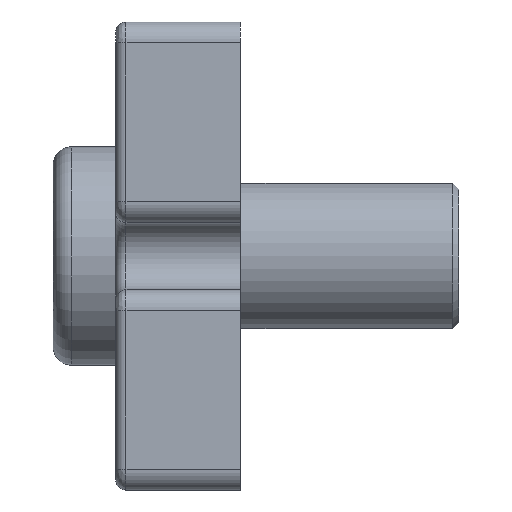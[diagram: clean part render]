
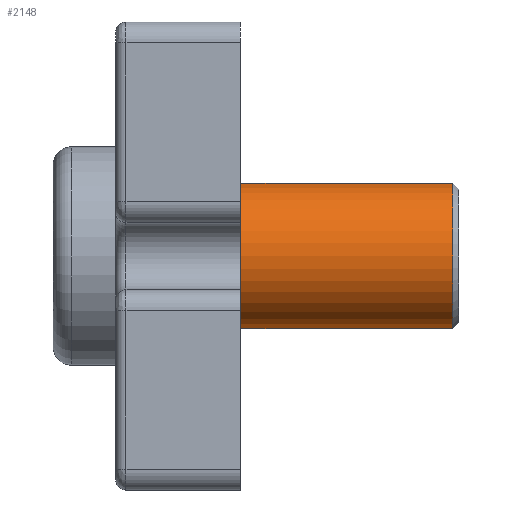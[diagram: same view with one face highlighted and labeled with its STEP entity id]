
A CAD part, left-side view. The second image highlights one B-rep face of the part: STEP entity #2148.
In plain terms, the highlighted cylindrical face has radius 7 mm (diameter 14 mm), a full revolution.
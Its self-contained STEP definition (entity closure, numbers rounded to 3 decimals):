
#237=LINE('',#3931,#408);
#408=VECTOR('',#3043,7.);
#484=CYLINDRICAL_SURFACE('',#2418,7.);
#594=FACE_OUTER_BOUND('',#728,.T.);
#728=EDGE_LOOP('',(#1944,#1945,#1946,#1947));
#879=CIRCLE('',#2416,7.);
#881=CIRCLE('',#2419,7.);
#1063=VERTEX_POINT('',#3923);
#1065=VERTEX_POINT('',#3929);
#1363=EDGE_CURVE('',#1063,#1063,#879,.T.);
#1366=EDGE_CURVE('',#1065,#1065,#881,.T.);
#1367=EDGE_CURVE('',#1065,#1063,#237,.T.);
#1944=ORIENTED_EDGE('',*,*,#1366,.T.);
#1945=ORIENTED_EDGE('',*,*,#1367,.T.);
#1946=ORIENTED_EDGE('',*,*,#1363,.T.);
#1947=ORIENTED_EDGE('',*,*,#1367,.F.);
#2148=ADVANCED_FACE('',(#594),#484,.T.);
#2416=AXIS2_PLACEMENT_3D('',#3924,#3034,#3035);
#2418=AXIS2_PLACEMENT_3D('',#3928,#3039,#3040);
#2419=AXIS2_PLACEMENT_3D('',#3930,#3041,#3042);
#3034=DIRECTION('center_axis',(0.,1.,0.));
#3035=DIRECTION('ref_axis',(0.,0.,-1.));
#3039=DIRECTION('center_axis',(0.,1.,0.));
#3040=DIRECTION('ref_axis',(0.,0.,1.));
#3041=DIRECTION('center_axis',(0.,-1.,0.));
#3042=DIRECTION('ref_axis',(0.,0.,-1.));
#3043=DIRECTION('',(0.,-1.,0.));
#3923=CARTESIAN_POINT('',(-25.431,-20.903,-8.634));
#3924=CARTESIAN_POINT('Origin',(-25.431,-20.903,-1.634));
#3928=CARTESIAN_POINT('Origin',(-25.431,-21.503,-1.634));
#3929=CARTESIAN_POINT('',(-25.431,3.497,-8.634));
#3930=CARTESIAN_POINT('Origin',(-25.431,3.497,-1.634));
#3931=CARTESIAN_POINT('',(-25.431,-21.503,-8.634));
